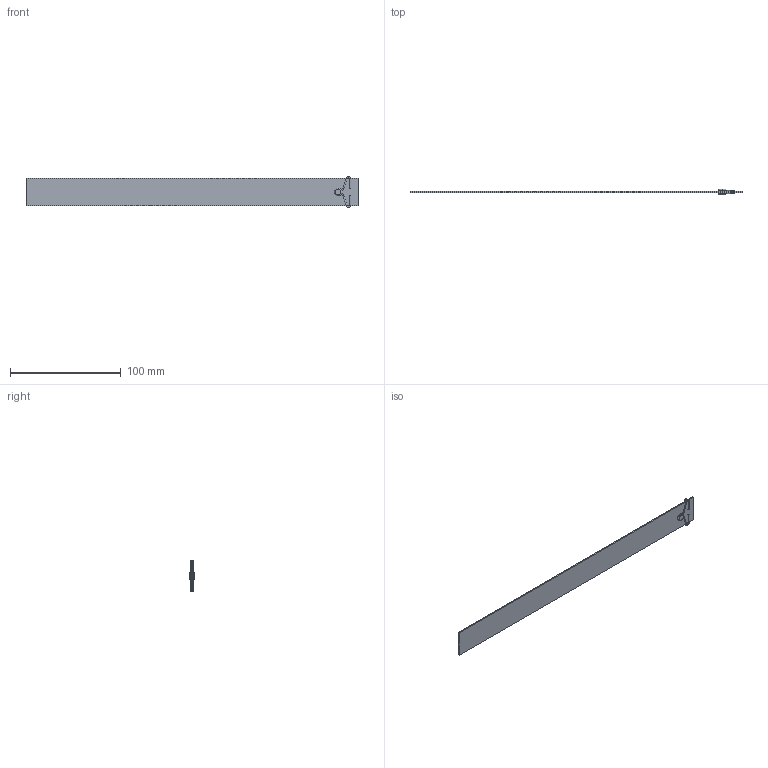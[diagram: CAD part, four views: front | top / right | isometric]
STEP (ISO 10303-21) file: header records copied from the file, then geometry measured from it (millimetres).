
FILE_DESCRIPTION (( 'STEP AP203' ), '1' );
FILE_NAME ('RLA-25x300.STEP', '2015-12-10T16:21:37', ( 'Balzi' ), ( '' ), 'SwSTEP 2.0', 'SolidWorks 2015', '' );
FILE_SCHEMA (( 'CONFIG_CONTROL_DESIGN' ));
Length unit declared in the file: millimetre
Products named in the file (1): RLA-25x300
Bounding box: 300 x 5 x 27.99 mm (x, y, z)
Volume: 7599.2 mm3; surface area: 16107 mm2
Topology: 5 solids, 5 shells, 84 faces, 162 edges, 88 vertices
Faces by surface type: torus 40, cylinder 30, plane 14
Entity records: 2199 total; most frequent: DIRECTION 452, CARTESIAN_POINT 335, ORIENTED_EDGE 324, AXIS2_PLACEMENT_3D 205, EDGE_CURVE 162, CIRCLE 120, VERTEX_POINT 88, EDGE_LOOP 86
